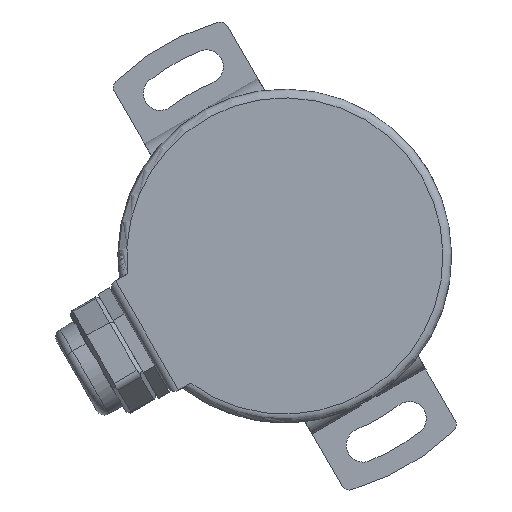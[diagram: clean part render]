
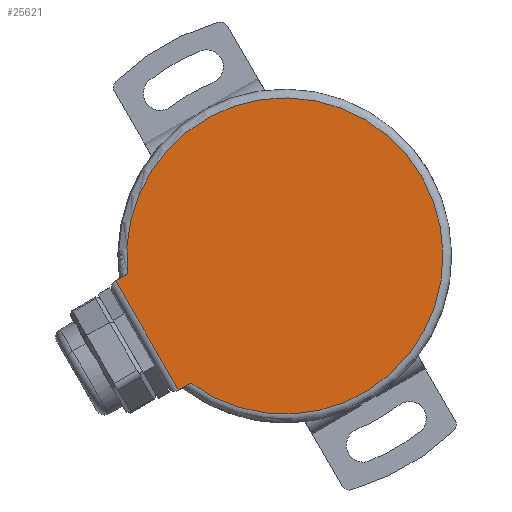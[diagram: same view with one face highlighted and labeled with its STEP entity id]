
A CAD part, front view. The second image highlights one B-rep face of the part: STEP entity #25621.
In plain terms, the highlighted planar face has unit normal (0, -1, 0) as drawn and (0, 0, -1) by its records, which use the part's own axes.
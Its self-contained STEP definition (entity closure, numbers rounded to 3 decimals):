
#228 = DIRECTION ( 'NONE',  ( 0., 0., 1. ) ) ;
#2518 = LINE ( 'NONE', #18259, #22158 ) ;
#4915 = ORIENTED_EDGE ( 'NONE', *, *, #17640, .T. ) ;
#5382 = EDGE_CURVE ( 'NONE', #14903, #13610, #2518, .T. ) ;
#6363 = DIRECTION ( 'NONE',  ( 1., 0., 0. ) ) ;
#6731 = CARTESIAN_POINT ( 'NONE',  ( 0., 0., -16. ) ) ;
#8369 = CARTESIAN_POINT ( 'NONE',  ( 18.25, 7.25, -16. ) ) ;
#8483 = ORIENTED_EDGE ( 'NONE', *, *, #25220, .F. ) ;
#8562 = DIRECTION ( 'NONE',  ( 0., -1., 0. ) ) ;
#8778 = CARTESIAN_POINT ( 'NONE',  ( 18.25, -7.25, -16. ) ) ;
#9907 = DIRECTION ( 'NONE',  ( 1., 0., 0. ) ) ;
#10834 = EDGE_LOOP ( 'NONE', ( #8483, #4915, #25006, #40484 ) ) ;
#12311 = VERTEX_POINT ( 'NONE', #38389 ) ;
#12432 = CARTESIAN_POINT ( 'NONE',  ( 0., 0., -16. ) ) ;
#13610 = VERTEX_POINT ( 'NONE', #8369 ) ;
#14903 = VERTEX_POINT ( 'NONE', #34942 ) ;
#15574 = DIRECTION ( 'NONE',  ( 0., 0., -1. ) ) ;
#16062 = VECTOR ( 'NONE', #6363, 1000. ) ;
#17640 = EDGE_CURVE ( 'NONE', #12311, #14903, #28349, .T. ) ;
#18259 = CARTESIAN_POINT ( 'NONE',  ( -19.151, 7.25, -16. ) ) ;
#19411 = CARTESIAN_POINT ( 'NONE',  ( -19.151, -7.25, -16. ) ) ;
#19688 = EDGE_CURVE ( 'NONE', #13610, #32318, #37210, .T. ) ;
#21787 = CARTESIAN_POINT ( 'NONE',  ( 18.25, -7.25, -16. ) ) ;
#22158 = VECTOR ( 'NONE', #37904, 1000. ) ;
#22708 = DIRECTION ( 'NONE',  ( 1., 0., 0. ) ) ;
#25006 = ORIENTED_EDGE ( 'NONE', *, *, #5382, .T. ) ;
#25220 = EDGE_CURVE ( 'NONE', #12311, #32318, #35221, .T. ) ;
#25621 = ADVANCED_FACE ( 'NONE', ( #41306 ), #29056, .F. ) ;
#28349 = CIRCLE ( 'NONE', #39104, 18.15 ) ;
#29056 = PLANE ( 'NONE',  #38314 ) ;
#32318 = VERTEX_POINT ( 'NONE', #21787 ) ;
#34942 = CARTESIAN_POINT ( 'NONE',  ( 16.639, 7.25, -16. ) ) ;
#35092 = VECTOR ( 'NONE', #8562, 1000. ) ;
#35221 = LINE ( 'NONE', #19411, #16062 ) ;
#37210 = LINE ( 'NONE', #8778, #35092 ) ;
#37904 = DIRECTION ( 'NONE',  ( 1., 0., 0. ) ) ;
#38314 = AXIS2_PLACEMENT_3D ( 'NONE', #12432, #228, #9907 ) ;
#38389 = CARTESIAN_POINT ( 'NONE',  ( 16.639, -7.25, -16. ) ) ;
#39104 = AXIS2_PLACEMENT_3D ( 'NONE', #6731, #15574, #22708 ) ;
#40484 = ORIENTED_EDGE ( 'NONE', *, *, #19688, .T. ) ;
#41306 = FACE_OUTER_BOUND ( 'NONE', #10834, .T. ) ;
